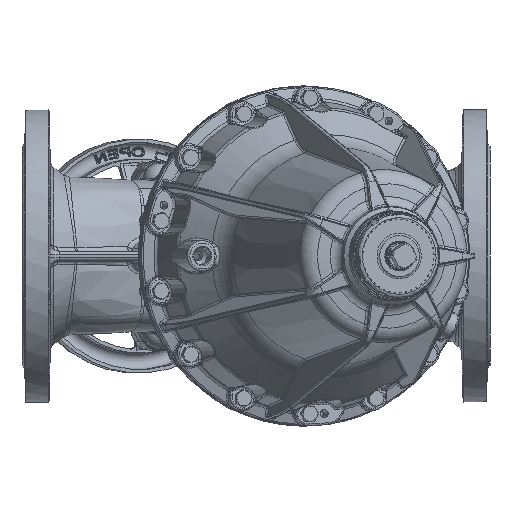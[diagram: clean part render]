
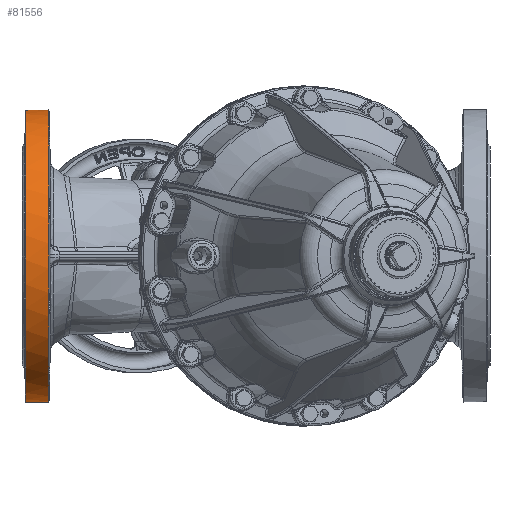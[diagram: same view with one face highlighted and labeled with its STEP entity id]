
A CAD part, front view. The second image highlights one B-rep face of the part: STEP entity #81556.
In plain terms, the highlighted cylindrical face has radius 125 mm (diameter 250 mm), a partial arc.
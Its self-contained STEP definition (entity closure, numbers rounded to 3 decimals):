
#8488 = VERTEX_POINT ( 'NONE', #65338 ) ;
#8510 = VERTEX_POINT ( 'NONE', #65336 ) ;
#8818 = EDGE_CURVE ( 'NONE', #8488, #8510, #65751, .T. ) ;
#11649 = CARTESIAN_POINT ( 'NONE',  ( -163.307, 124., 15.78 ) ) ;
#11769 = CARTESIAN_POINT ( 'NONE',  ( -184., 124., -15.78 ) ) ;
#11821 = CARTESIAN_POINT ( 'NONE',  ( -163.307, 124., -15.78 ) ) ;
#11824 = B_SPLINE_CURVE_WITH_KNOTS ( 'NONE', 3,
 ( #11917, #11915, #11913, #11912, #11911, #11909, #11908, #11907 ),
 .UNSPECIFIED., .F., .F.,
 ( 4, 2, 2, 4 ),
 ( 0.003, 0.004, 0.004, 0.006 ),
 .UNSPECIFIED. ) ;
#11907 = CARTESIAN_POINT ( 'NONE',  ( -164., 123.651, -18.312 ) ) ;
#11908 = CARTESIAN_POINT ( 'NONE',  ( -164., 123.717, -17.867 ) ) ;
#11909 = CARTESIAN_POINT ( 'NONE',  ( -163.94, 123.781, -17.422 ) ) ;
#11911 = CARTESIAN_POINT ( 'NONE',  ( -163.765, 123.868, -16.785 ) ) ;
#11912 = CARTESIAN_POINT ( 'NONE',  ( -163.693, 123.896, -16.578 ) ) ;
#11913 = CARTESIAN_POINT ( 'NONE',  ( -163.521, 123.95, -16.171 ) ) ;
#11915 = CARTESIAN_POINT ( 'NONE',  ( -163.42, 123.976, -15.971 ) ) ;
#11917 = CARTESIAN_POINT ( 'NONE',  ( -163.307, 124., -15.78 ) ) ;
#11935 = CARTESIAN_POINT ( 'NONE',  ( -163.766, 123.868, 16.788 ) ) ;
#11937 = CARTESIAN_POINT ( 'NONE',  ( -163.941, 123.78, 17.429 ) ) ;
#12108 = CARTESIAN_POINT ( 'NONE',  ( -163.419, 123.976, 15.97 ) ) ;
#12111 = CARTESIAN_POINT ( 'NONE',  ( -163.519, 123.95, 16.167 ) ) ;
#12112 = CARTESIAN_POINT ( 'NONE',  ( -163.692, 123.896, 16.576 ) ) ;
#12117 = B_SPLINE_CURVE_WITH_KNOTS ( 'NONE', 3,
 ( #12120, #12118, #11937, #11935, #12112, #12111, #12108, #11649 ),
 .UNSPECIFIED., .F., .F.,
 ( 4, 2, 2, 4 ),
 ( 0., 0.001, 0.002, 0.003 ),
 .UNSPECIFIED. ) ;
#12118 = CARTESIAN_POINT ( 'NONE',  ( -164., 123.717, 17.866 ) ) ;
#12120 = CARTESIAN_POINT ( 'NONE',  ( -164., 123.651, 18.312 ) ) ;
#12167 = CARTESIAN_POINT ( 'NONE',  ( -184., 124., 15.78 ) ) ;
#12174 = CARTESIAN_POINT ( 'NONE',  ( -163.307, 124., 15.78 ) ) ;
#12282 = DIRECTION ( 'NONE',  ( -1., 0., 0. ) ) ;
#12284 = CARTESIAN_POINT ( 'NONE',  ( -184., 0., 0. ) ) ;
#12286 = AXIS2_PLACEMENT_3D ( 'NONE', #12284, #12282, #12375 ) ;
#12288 = CIRCLE ( 'NONE', #12286, 125. ) ;
#12353 = CYLINDRICAL_SURFACE ( 'NONE', #12497, 125. ) ;
#12375 = DIRECTION ( 'NONE',  ( 0., 0., 1. ) ) ;
#12483 = DIRECTION ( 'NONE',  ( 0., 0., 1. ) ) ;
#12485 = DIRECTION ( 'NONE',  ( -1., 0., 0. ) ) ;
#12492 = CARTESIAN_POINT ( 'NONE',  ( -164.588, 0., 0. ) ) ;
#12497 = AXIS2_PLACEMENT_3D ( 'NONE', #12492, #12485, #12483 ) ;
#12532 = FACE_OUTER_BOUND ( 'NONE', #81478, .T. ) ;
#12552 = DIRECTION ( 'NONE',  ( 1., 0., 0. ) ) ;
#12554 = VECTOR ( 'NONE', #12552, 1000. ) ;
#12555 = CARTESIAN_POINT ( 'NONE',  ( -164.588, 124., -15.78 ) ) ;
#12576 = LINE ( 'NONE', #12555, #12554 ) ;
#13188 = DIRECTION ( 'NONE',  ( -1., 0., 0. ) ) ;
#13189 = VECTOR ( 'NONE', #13188, 1000. ) ;
#13190 = CARTESIAN_POINT ( 'NONE',  ( -164.588, 124., 15.78 ) ) ;
#13191 = LINE ( 'NONE', #13190, #13189 ) ;
#65309 = AXIS2_PLACEMENT_3D ( 'NONE', #65615, #65747, #65704 ) ;
#65336 = CARTESIAN_POINT ( 'NONE',  ( -164., 123.651, -18.312 ) ) ;
#65338 = CARTESIAN_POINT ( 'NONE',  ( -164., 123.651, 18.312 ) ) ;
#65615 = CARTESIAN_POINT ( 'NONE',  ( -164., 0., 0. ) ) ;
#65704 = DIRECTION ( 'NONE',  ( 0., 0., -1. ) ) ;
#65747 = DIRECTION ( 'NONE',  ( 1., 0., 0. ) ) ;
#65751 = CIRCLE ( 'NONE', #65309, 125. ) ;
#81215 = VERTEX_POINT ( 'NONE', #11821 ) ;
#81233 = VERTEX_POINT ( 'NONE', #11769 ) ;
#81261 = EDGE_CURVE ( 'NONE', #81215, #8510, #11824, .T. ) ;
#81333 = EDGE_CURVE ( 'NONE', #8488, #81392, #12117, .T. ) ;
#81343 = VERTEX_POINT ( 'NONE', #12167 ) ;
#81390 = ORIENTED_EDGE ( 'NONE', *, *, #81453, .F. ) ;
#81392 = VERTEX_POINT ( 'NONE', #12174 ) ;
#81453 = EDGE_CURVE ( 'NONE', #81233, #81343, #12288, .T. ) ;
#81478 = EDGE_LOOP ( 'NONE', ( #81390, #81552, #81574, #81597, #81566, #81578 ) ) ;
#81552 = ORIENTED_EDGE ( 'NONE', *, *, #81563, .T. ) ;
#81556 = ADVANCED_FACE ( 'NONE', ( #12532 ), #12353, .T. ) ;
#81563 = EDGE_CURVE ( 'NONE', #81233, #81215, #12576, .T. ) ;
#81566 = ORIENTED_EDGE ( 'NONE', *, *, #81333, .T. ) ;
#81574 = ORIENTED_EDGE ( 'NONE', *, *, #81261, .T. ) ;
#81578 = ORIENTED_EDGE ( 'NONE', *, *, #81673, .T. ) ;
#81597 = ORIENTED_EDGE ( 'NONE', *, *, #8818, .F. ) ;
#81673 = EDGE_CURVE ( 'NONE', #81392, #81343, #13191, .T. ) ;
